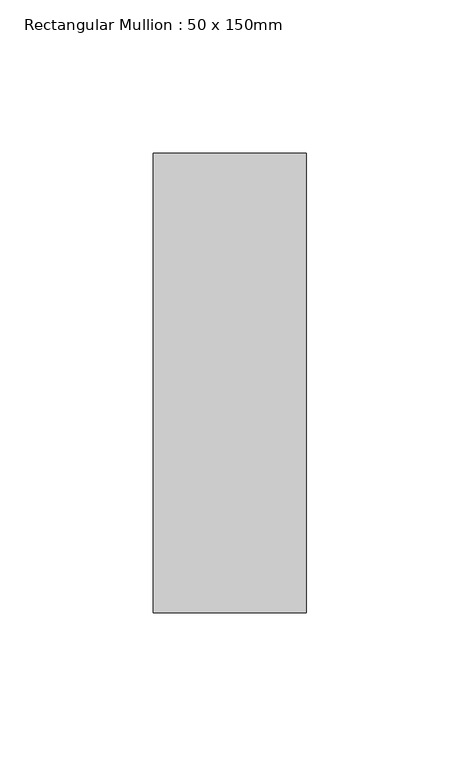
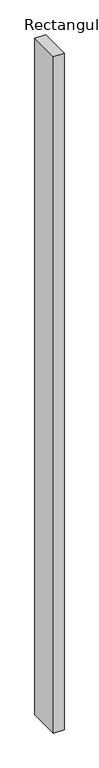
"""IFC4 building model written with IfcOpenShell, lengths in millimetres: member geometry, Rectangular Mullion : 50 x 150mm."""

from ifc_helpers import new_model, si_unit, frame, origin, place, context, project, spatial, polyline, outline, extrude, source, transform, mapped, element, save


def rectangular_mullion_50_x_150mm_86a57cfb(model_context):
    return source(origin(), model_context, "Body", "SweptSolid", [
        extrude(outline(polyline([(25.0, 75.0), (25.0, -75.0), (-25.0, -75.0), (-25.0, 75.0), (25.0, 75.0)])), frame((0.0, 0.0, -3350.0), z_axis=(0.0, 0.0, 1.0), x_axis=(1.0, 0.0, 0.0)), (0.0, 0.0, 1.0), 3350.0),
    ])


if __name__ == "__main__":
    model = new_model("IFC4")
    model_context = context("Model", 3, world=origin())
    ifc_project = project(units=[si_unit("LENGTHUNIT", "METRE", prefix="MILLI")], contexts=[model_context])
    site = spatial("IfcSite", under=ifc_project)
    building = spatial("IfcBuilding", under=site)
    placement = place(None, origin())
    rectangular_mullion_50_x_150mm_shape = rectangular_mullion_50_x_150mm_86a57cfb(model_context)
    element("IfcMember", 1, ObjectType="Rectangular Mullion : 50 x 150mm", at=placement, inside=building, context=model_context, shape_type="MappedRepresentation", body=[
        mapped(rectangular_mullion_50_x_150mm_shape, transform((0.0, 0.0, 0.0), x_axis=(1.0, 0.0, 0.0), y_axis=(0.0, 1.0, 0.0), z_axis=(0.0, 0.0, 1.0))),
    ])
    save(model, "model.ifc")
